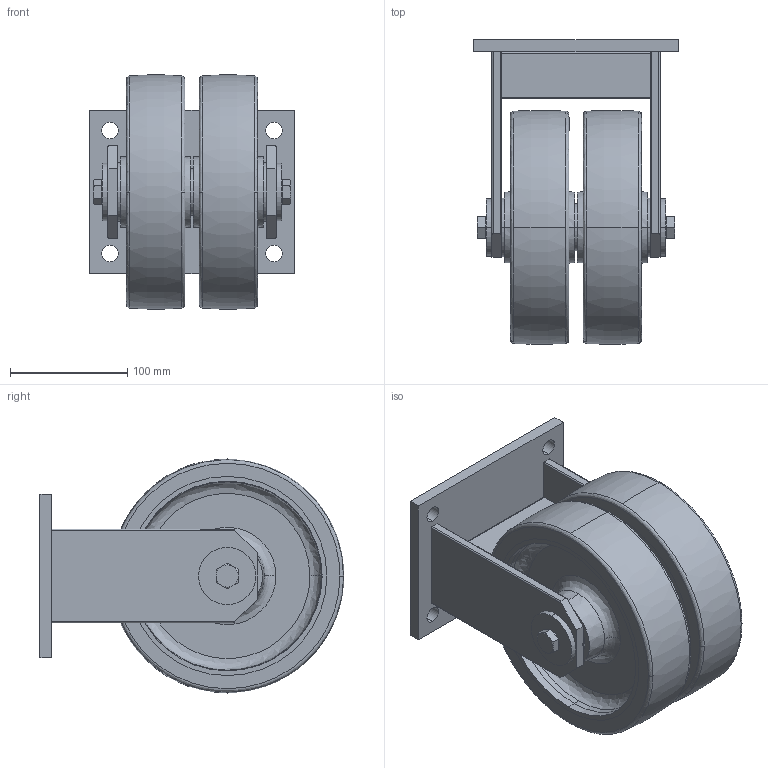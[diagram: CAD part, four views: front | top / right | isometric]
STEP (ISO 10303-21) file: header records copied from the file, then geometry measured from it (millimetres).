
FILE_DESCRIPTION (( 'STEP AP214' ), '1' );
FILE_NAME ('BSD-GTH_200K-35_607903-214.step', '2013-03-16T11:32:03', ( '' ), ( '' ), 'SwSTEP 2.0', 'SolidWorks 2012', '' );
FILE_SCHEMA (( 'AUTOMOTIVE_DESIGN' ));
Length unit declared in the file: millimetre
Products named in the file (5): GTH_G15_GTH_200_25K_026989; GTH_200_25K_G15; AM_LSD_12x143,5x8_BB50x5_K; GH-BSD_200-44_G15; BSD-GTH_200K-35_607903-214
Assembly tree (5 placements, depth 3):
  BSD-GTH_200K-35_607903-214
    GH-BSD_200-44_G15
    AM_LSD_12x143,5x8_BB50x5_K
    GTH_G15_GTH_200_25K_026989  x2
      GTH_200_25K_G15
Bounding box: 175 x 259.76 x 199.82 mm (x, y, z)
Volume: 2405234.7 mm3; surface area: 399751.4 mm2
Topology: 4 solids, 4 shells, 1665 faces, 4453 edges, 2946 vertices
Faces by surface type: plane 890, bspline 641, cylinder 76, cone 54, torus 4
Entity records: 52971 total; most frequent: CARTESIAN_POINT 22541, ORIENTED_EDGE 5398, DIRECTION 3493, EDGE_CURVE 2699, VERTEX_POINT 1787, LINE 1709, VECTOR 1709, EDGE_LOOP 1120
